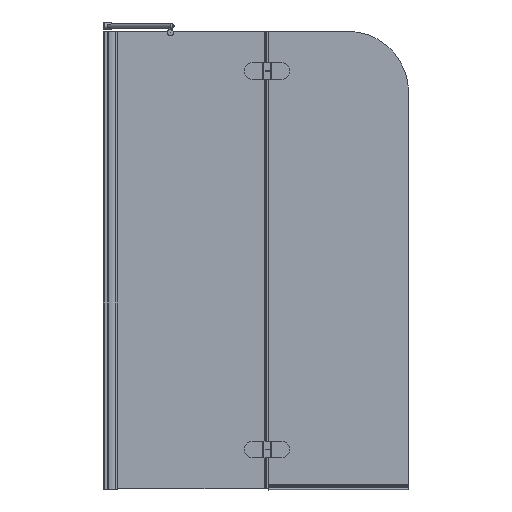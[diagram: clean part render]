
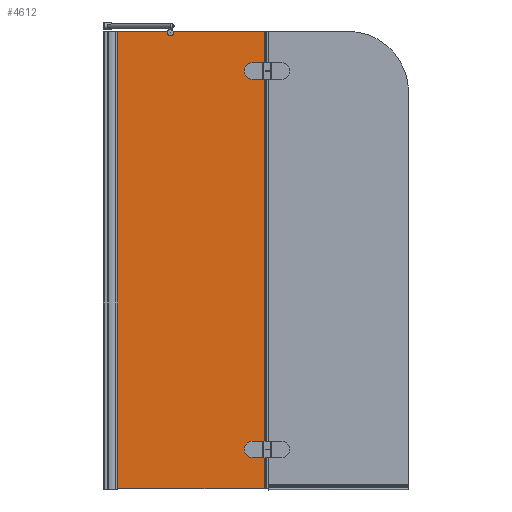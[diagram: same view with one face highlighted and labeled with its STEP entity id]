
A CAD part, front view. The second image highlights one B-rep face of the part: STEP entity #4612.
In plain terms, the highlighted planar face has unit normal (0, -1, 0).
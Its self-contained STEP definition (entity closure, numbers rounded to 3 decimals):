
#79=FACE_BOUND($,#801,.T.);
#80=FACE_BOUND($,#802,.T.);
#81=FACE_BOUND($,#803,.T.);
#91=CIRCLE($,#4650,26.);
#127=CIRCLE($,#4761,26.);
#137=CIRCLE($,#4784,10.);
#801=EDGE_LOOP($,(#3937,#3938,#3939,#3940));
#802=EDGE_LOOP($,(#3941,#3942,#3943,#3944));
#803=EDGE_LOOP($,(#3945,#3946,#3947,#3948,#3949,#3950,#3951,#3952));
#844=LINE($,#6337,#1283);
#847=LINE($,#6343,#1286);
#851=LINE($,#6353,#1290);
#994=LINE($,#6721,#1433);
#997=LINE($,#6727,#1436);
#1001=LINE($,#6737,#1440);
#1036=LINE($,#7061,#1475);
#1052=LINE($,#7110,#1491);
#1154=LINE($,#7458,#1593);
#1175=LINE($,#7514,#1614);
#1183=LINE($,#7547,#1622);
#1227=LINE($,#7686,#1666);
#1228=LINE($,#7688,#1667);
#1283=VECTOR($,#5088,52.);
#1286=VECTOR($,#5093,23.);
#1290=VECTOR($,#5105,23.);
#1433=VECTOR($,#5460,52.);
#1436=VECTOR($,#5465,23.);
#1440=VECTOR($,#5477,23.);
#1475=VECTOR($,#5600,298.866);
#1491=VECTOR($,#5636,178.274);
#1593=VECTOR($,#5908,480.698);
#1614=VECTOR($,#5963,1499.);
#1622=VECTOR($,#6001,14.302);
#1666=VECTOR($,#6147,1.);
#1667=VECTOR($,#6150,1500.);
#1718=VERTEX_POINT($,#6334);
#1719=VERTEX_POINT($,#6336);
#1721=VERTEX_POINT($,#6342);
#1723=VERTEX_POINT($,#6348);
#1841=VERTEX_POINT($,#6718);
#1842=VERTEX_POINT($,#6720);
#1844=VERTEX_POINT($,#6726);
#1846=VERTEX_POINT($,#6732);
#1871=VERTEX_POINT($,#6842);
#1873=VERTEX_POINT($,#6846);
#1895=VERTEX_POINT($,#7060);
#1918=VERTEX_POINT($,#7108);
#2028=VERTEX_POINT($,#7455);
#2029=VERTEX_POINT($,#7457);
#2047=VERTEX_POINT($,#7513);
#2057=VERTEX_POINT($,#7546);
#2148=EDGE_CURVE($,#1719,#1718,#844,.T.);
#2151=EDGE_CURVE($,#1721,#1719,#847,.T.);
#2154=EDGE_CURVE($,#1723,#1721,#91,.T.);
#2157=EDGE_CURVE($,#1718,#1723,#851,.T.);
#2334=EDGE_CURVE($,#1842,#1841,#994,.T.);
#2337=EDGE_CURVE($,#1844,#1842,#997,.T.);
#2340=EDGE_CURVE($,#1846,#1844,#127,.T.);
#2343=EDGE_CURVE($,#1841,#1846,#1001,.T.);
#2379=EDGE_CURVE($,#1871,#1873,#137,.T.);
#2408=EDGE_CURVE($,#1895,#1871,#1036,.T.);
#2433=EDGE_CURVE($,#1873,#1918,#1052,.T.);
#2585=EDGE_CURVE($,#2028,#2029,#1154,.T.);
#2614=EDGE_CURVE($,#2029,#2047,#1175,.T.);
#2631=EDGE_CURVE($,#2057,#2047,#1183,.T.);
#2701=EDGE_CURVE($,#1918,#2057,#1227,.T.);
#2702=EDGE_CURVE($,#2028,#1895,#1228,.T.);
#3937=ORIENTED_EDGE($,*,*,#2148,.T.);
#3938=ORIENTED_EDGE($,*,*,#2157,.T.);
#3939=ORIENTED_EDGE($,*,*,#2154,.T.);
#3940=ORIENTED_EDGE($,*,*,#2151,.T.);
#3941=ORIENTED_EDGE($,*,*,#2334,.T.);
#3942=ORIENTED_EDGE($,*,*,#2343,.T.);
#3943=ORIENTED_EDGE($,*,*,#2340,.T.);
#3944=ORIENTED_EDGE($,*,*,#2337,.T.);
#3945=ORIENTED_EDGE($,*,*,#2379,.T.);
#3946=ORIENTED_EDGE($,*,*,#2433,.T.);
#3947=ORIENTED_EDGE($,*,*,#2701,.T.);
#3948=ORIENTED_EDGE($,*,*,#2631,.T.);
#3949=ORIENTED_EDGE($,*,*,#2614,.F.);
#3950=ORIENTED_EDGE($,*,*,#2585,.F.);
#3951=ORIENTED_EDGE($,*,*,#2702,.T.);
#3952=ORIENTED_EDGE($,*,*,#2408,.T.);
#4149=PLANE($,#5007);
#4612=ADVANCED_FACE($,(#79,#80,#81),#4149,.T.);
#4650=AXIS2_PLACEMENT_3D($,#6349,#5099,#5100);
#4761=AXIS2_PLACEMENT_3D($,#6733,#5471,#5472);
#4784=AXIS2_PLACEMENT_3D($,#6848,#5542,#5543);
#5007=AXIS2_PLACEMENT_3D($,#7730,#6213,#6214);
#5088=DIRECTION($,(0.,0.,-1.));
#5093=DIRECTION($,(1.,0.,0.));
#5099=DIRECTION('center_axis',(0.,1.,0.));
#5100=DIRECTION('ref_axis',(0.,0.,
-1.));
#5105=DIRECTION($,(-1.,0.,0.));
#5460=DIRECTION($,(0.,0.,-1.));
#5465=DIRECTION($,(1.,0.,0.));
#5471=DIRECTION('center_axis',(0.,1.,0.));
#5472=DIRECTION('ref_axis',(0.,0.,
-1.));
#5477=DIRECTION($,(-1.,0.,0.));
#5542=DIRECTION('center_axis',(0.,1.,0.));
#5543=DIRECTION('ref_axis',(-0.597,0.,0.802));
#5600=DIRECTION($,(-1.,0.,0.));
#5636=DIRECTION($,(-1.,0.,0.));
#5908=DIRECTION($,(-1.,0.,0.));
#5963=DIRECTION($,(0.,0.,1.));
#6001=DIRECTION($,(1.,0.,0.));
#6147=DIRECTION($,(0.,0.,-1.));
#6150=DIRECTION($,(0.,0.,1.));
#6213=DIRECTION('center_axis',(0.,-1.,0.));
#6214=DIRECTION('ref_axis',(-1.,0.,0.));
#6334=CARTESIAN_POINT('',(362.933,-34.044,1369.944));
#6336=CARTESIAN_POINT('',(362.933,-34.044,1421.944));
#6337=CARTESIAN_POINT($,(362.933,-34.044,1473.944));
#6342=CARTESIAN_POINT('',(339.933,-34.044,1421.944));
#6343=CARTESIAN_POINT($,(361.933,-34.044,1421.944));
#6348=CARTESIAN_POINT('',(339.933,-34.044,1369.944));
#6349=CARTESIAN_POINT('Origin',(339.933,-34.044,1395.944));
#6353=CARTESIAN_POINT($,(373.433,-34.044,1369.944));
#6718=CARTESIAN_POINT('',(362.933,-34.044,129.944));
#6720=CARTESIAN_POINT('',(362.933,-34.044,181.944));
#6721=CARTESIAN_POINT($,(362.933,-34.044,853.944));
#6726=CARTESIAN_POINT('',(339.933,-34.044,181.944));
#6727=CARTESIAN_POINT($,(361.933,-34.044,181.944));
#6732=CARTESIAN_POINT('',(339.933,-34.044,129.944));
#6733=CARTESIAN_POINT('Origin',(339.933,-34.044,155.944));
#6737=CARTESIAN_POINT($,(373.433,-34.044,129.944));
#6842=CARTESIAN_POINT('',(80.068,-34.044,1525.944));
#6846=CARTESIAN_POINT('',(62.207,-34.044,1525.944));
#6848=CARTESIAN_POINT('Origin',(71.137,-34.044,1521.444));
#7060=CARTESIAN_POINT('',(378.933,-34.044,1525.944));
#7061=CARTESIAN_POINT($,(383.933,-34.044,1525.944));
#7108=CARTESIAN_POINT('',(-116.067,-34.044,1525.944));
#7110=CARTESIAN_POINT($,(383.933,-34.044,1525.944));
#7455=CARTESIAN_POINT('',(378.933,-34.044,25.944));
#7457=CARTESIAN_POINT('',(-101.765,-34.044,25.944));
#7458=CARTESIAN_POINT($,(383.933,-34.044,25.944));
#7513=CARTESIAN_POINT('',(-101.765,-34.044,1524.944));
#7514=CARTESIAN_POINT($,(-101.765,-34.044,24.944));
#7546=CARTESIAN_POINT('',(-116.067,-34.044,1524.944));
#7547=CARTESIAN_POINT($,(132.415,-34.044,1524.944));
#7686=CARTESIAN_POINT($,(-116.067,-34.044,1525.944));
#7688=CARTESIAN_POINT($,(378.933,-34.044,1525.944));
#7730=CARTESIAN_POINT('Origin',(383.933,-34.044,1525.944));
